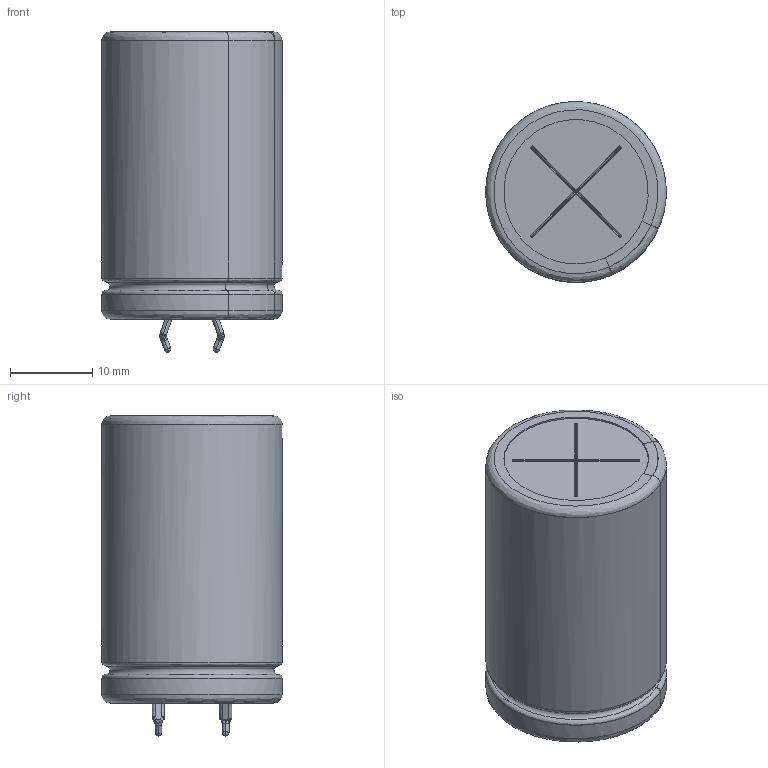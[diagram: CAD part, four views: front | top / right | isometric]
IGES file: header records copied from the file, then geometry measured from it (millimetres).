
Start section: JAMA-IS VERSION  1.0
Bounding box: 21.99 x 21.99 x 39.02 mm (x, y, z)
Surface area: 8658.4 mm2 (no closed solid volume)
Topology: 0 solids, 0 shells, 208 faces, 2178 edges, 2142 vertices
Faces by surface type: bspline 208
